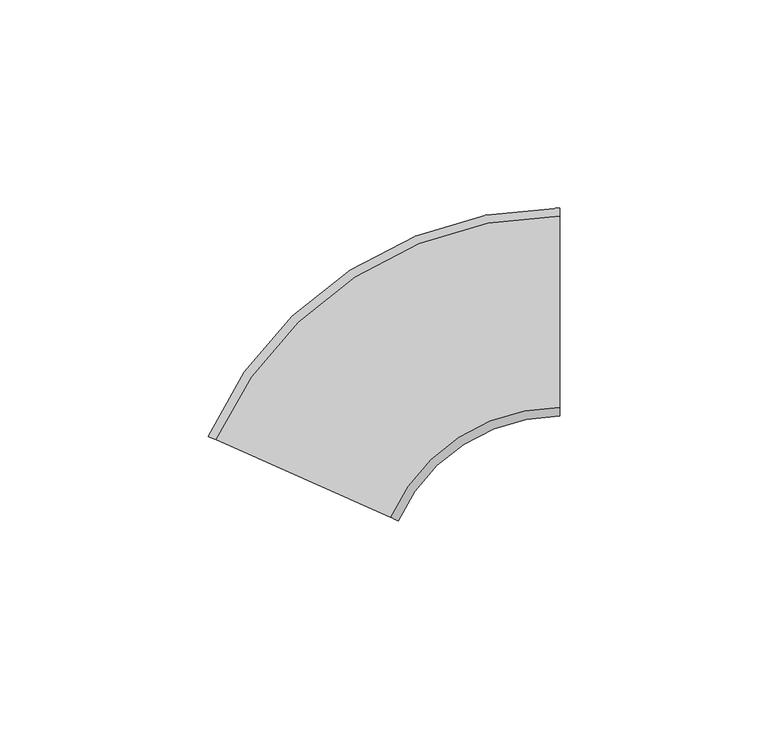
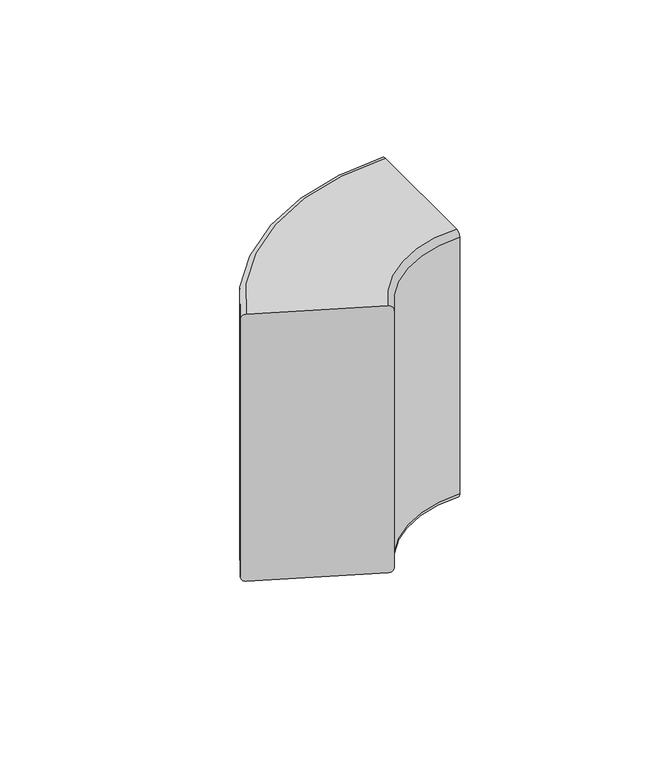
"""IFC4 building model written with IfcOpenShell, lengths in millimetres: duct fitting geometry, Угол внутренний переменный от 80° до 100° - для кабель-каналов DLP - белый : Угол внутренний переменный от 60° до 120° - для кабель-каналов DLP 50х105 - белый."""

import ifcopenshell
import ifcopenshell.guid

model = None  # the IFC model being written
_history = None  # IfcOwnerHistory: only IFC2X3 demands one
_inside = {}  # id of a spatial element -> (the spatial element, [elements in it])
_under = {}  # id of a project, library or spatial element -> (it, [spatial elements below it])
_declared = {}  # id of a project -> (the project, [libraries it declares])
_typed = {}  # id of a type object -> (the type object, [elements of that type])
_made_of = {}  # id of a material, layer set ... -> (it, [elements and type objects made of it])


def new_model(schema):
    """Start an empty IFC model of exactly this schema.

    Asked for "IFC4X3", IfcOpenShell would pick the latest addendum, in which some entities
    have other attributes; the version numbers below select the first issue.
    IFC2X3 requires an IfcOwnerHistory on every rooted entity: one is made here for all.
    """
    global model, _history
    if schema == "IFC4X3":
        model = ifcopenshell.file(schema_version=(4, 3, 0, 0))
    else:
        model = ifcopenshell.file(schema=schema)
    _inside.clear()
    _under.clear()
    _declared.clear()
    _typed.clear()
    _made_of.clear()
    _history = None
    if model.schema == "IFC2X3":
        org = make("IfcOrganization", Name="unknown")
        user = make(
            "IfcPersonAndOrganization",
            ThePerson=make("IfcPerson", FamilyName="unknown"),
            TheOrganization=org,
        )
        app = make(
            "IfcApplication",
            ApplicationDeveloper=org,
            Version="unknown",
            ApplicationFullName="unknown",
            ApplicationIdentifier="unknown",
        )
        _history = make(
            "IfcOwnerHistory",
            OwningUser=user,
            OwningApplication=app,
            ChangeAction="ADDED",
            CreationDate=0,
        )
    return model


def make(cls, **values):
    """One entity of the class cls with the attributes given. An attribute that is None is left unset."""
    return model.create_entity(
        cls, **{name: value for name, value in values.items() if value is not None}
    )


def rooted(cls, **values):
    """An entity with a GlobalId (a new one), such as an element, a storey or a relation."""
    return make(cls, GlobalId=ifcopenshell.guid.new(), OwnerHistory=_history, **values)


def si_unit(unit_type, name, prefix=None):
    """IfcSIUnit, for example si_unit("LENGTHUNIT", "METRE", prefix="MILLI")."""
    return make("IfcSIUnit", UnitType=unit_type, Prefix=prefix, Name=name)


def assignment(units):
    """IfcUnitAssignment: the units of a project."""
    return None if units is None else make("IfcUnitAssignment", Units=units)


def point(xyz):
    """IfcCartesianPoint."""
    return None if xyz is None else make("IfcCartesianPoint", Coordinates=xyz)


def direction(xyz):
    """IfcDirection."""
    return None if xyz is None else make("IfcDirection", DirectionRatios=xyz)


def frame(location, z_axis=None, x_axis=None):
    """IfcAxis2Placement3D, a coordinate frame: its origin and axes. An axis left out is left unset."""
    return make(
        "IfcAxis2Placement3D",
        Location=point(location),
        Axis=direction(z_axis),
        RefDirection=direction(x_axis),
    )


def origin():
    """The frame at (0, 0, 0) with its axes left unset."""
    return frame((0.0, 0.0, 0.0))


def place(relative_to, where):
    """IfcLocalPlacement: puts the frame where relative to a parent placement (None: the world)."""
    return make(
        "IfcLocalPlacement", PlacementRelTo=relative_to, RelativePlacement=where
    )


def context(
    kind, dimensions, precision=None, world=None, true_north=None, identifier=None
):
    """IfcGeometricRepresentationContext, for example the 3D "Model" context."""
    return make(
        "IfcGeometricRepresentationContext",
        ContextIdentifier=identifier,
        ContextType=kind,
        CoordinateSpaceDimension=dimensions,
        Precision=precision,
        WorldCoordinateSystem=world,
        TrueNorth=true_north,
    )


def project(units=None, contexts=None):
    """IfcProject with its units and contexts."""
    return rooted(
        "IfcProject",
        Name="project",
        RepresentationContexts=contexts,
        UnitsInContext=assignment(units),
    )


def spatial(cls, under=None, at=None, **own):
    """A site, building, storey or space (cls), placed at a placement, below another one or the project."""
    s = rooted(cls, ObjectPlacement=at, **own)
    if under is not None:
        _under.setdefault(under.id(), (under, []))[1].append(s)
    return s


def polyline(points):
    """IfcPolyline through the points."""
    return make("IfcPolyline", Points=[point(p) for p in points])


def circle_curve(where, radius):
    """IfcCircle in the frame where."""
    return make("IfcCircle", Position=where, Radius=radius)


def ellipse_curve(where, semi_axis1, semi_axis2):
    """IfcEllipse in the frame where."""
    return make(
        "IfcEllipse", Position=where, SemiAxis1=semi_axis1, SemiAxis2=semi_axis2
    )


def trimmed(basis, trim1, trim2, sense, master):
    """IfcTrimmedCurve: the piece of a basis curve between two trims."""
    return make(
        "IfcTrimmedCurve",
        BasisCurve=basis,
        Trim1=trim1,
        Trim2=trim2,
        SenseAgreement=sense,
        MasterRepresentation=master,
    )


def shape(context_of_items, identifier, shape_type, items):
    """IfcShapeRepresentation: the items that make up one representation, for example the "Body"."""
    return make(
        "IfcShapeRepresentation",
        ContextOfItems=context_of_items,
        RepresentationIdentifier=identifier,
        RepresentationType=shape_type,
        Items=items,
    )


def source(mapping_origin, context_of_items, identifier, shape_type, items):
    """IfcRepresentationMap: a shape defined once, which mapped items show again and again."""
    return make(
        "IfcRepresentationMap",
        MappingOrigin=mapping_origin,
        MappedRepresentation=shape(context_of_items, identifier, shape_type, items),
    )


def transform(
    local_origin,
    x_axis=None,
    y_axis=None,
    z_axis=None,
    scale=None,
    scale2=None,
    scale3=None,
    uniform=True,
):
    """IfcCartesianTransformationOperator3D, or its non-uniform kind. x_axis, y_axis, z_axis: its Axis1, 2, 3."""
    if uniform:
        return make(
            "IfcCartesianTransformationOperator3D",
            Axis1=direction(x_axis),
            Axis2=direction(y_axis),
            LocalOrigin=point(local_origin),
            Scale=scale,
            Axis3=direction(z_axis),
        )
    return make(
        "IfcCartesianTransformationOperator3DnonUniform",
        Axis1=direction(x_axis),
        Axis2=direction(y_axis),
        LocalOrigin=point(local_origin),
        Scale=scale,
        Axis3=direction(z_axis),
        Scale2=scale2,
        Scale3=scale3,
    )


def mapped(mapping_source, mapping_target):
    """IfcMappedItem: shows the shape of a source again, moved by a transform."""
    return make(
        "IfcMappedItem", MappingSource=mapping_source, MappingTarget=mapping_target
    )


def made_of(thing, what):
    """Note that an element or type object is made of a material, layer set ...; save() writes the relation."""
    if what is not None:
        _made_of.setdefault(what.id(), (what, []))[1].append(thing)
    return thing


def element(
    cls,
    number,
    at=None,
    inside=None,
    cuts=None,
    type_object=None,
    material=None,
    context=None,
    identifier="Body",
    shape_type=None,
    held_by="IfcProductDefinitionShape",
    body=None,
    shapes=None,
    **own,
):
    """One element of the class cls, such as IfcWall. Its Tag is "e" and its number.

    at: its placement. inside: the storey or other place that contains it. cuts: it is an
    opening in that element (IfcRelVoidsElement). A single representation is given by context,
    identifier, shape_type and body (its items); several are given by shapes. held_by: the class
    of the entity that holds the representations. save() writes the other relations.
    """
    e = rooted(cls, Tag="e%d" % number, ObjectPlacement=at, **own)
    if body is not None:
        shapes = [shape(context, identifier, shape_type, body)]
    if shapes is not None:
        e.Representation = make(held_by, Representations=shapes)
    if inside is not None:
        _inside.setdefault(inside.id(), (inside, []))[1].append(e)
    if cuts is not None:
        rooted(
            "IfcRelVoidsElement", RelatingBuildingElement=cuts, RelatedOpeningElement=e
        )
    if type_object is not None:
        _typed.setdefault(type_object.id(), (type_object, []))[1].append(e)
    return made_of(e, material)


def aggregate(whole, parts):
    """IfcRelAggregates: a whole, such as a stair, and the parts it consists of."""
    return rooted("IfcRelAggregates", RelatingObject=whole, RelatedObjects=parts)


def save(model, path):
    """Write the relations noted so far, then the file.

    IfcRelAggregates (storeys below a building ...), IfcRelContainedInSpatialStructure (elements
    in a storey), IfcRelDefinesByType, IfcRelAssociatesMaterial and IfcRelDeclares: one each for
    every whole, place, type object, material and project.
    """
    for whole, parts in _under.values():
        aggregate(whole, parts)
    for where, things in _inside.values():
        rooted(
            "IfcRelContainedInSpatialStructure",
            RelatedElements=things,
            RelatingStructure=where,
        )
    for kind, things in _typed.values():
        rooted("IfcRelDefinesByType", RelatedObjects=things, RelatingType=kind)
    for what, things in _made_of.values():
        rooted("IfcRelAssociatesMaterial", RelatedObjects=things, RelatingMaterial=what)
    for by, libraries in _declared.values():
        rooted("IfcRelDeclares", RelatingContext=by, RelatedDefinitions=libraries)
    model.write(path)


def plane_surface(at):
    """IfcPlane: the flat surface through the origin of the frame at, square to its z axis."""
    return make("IfcPlane", Position=at)


def cylinder_surface(at, radius):
    """IfcCylindricalSurface: all points at the distance radius from the z axis of the frame at."""
    return make("IfcCylindricalSurface", Position=at, Radius=radius)


def revolved_surface(curve, axis_point, axis_direction):
    """IfcSurfaceOfRevolution: the curve turned about the line through axis_point along axis_direction."""
    return make(
        "IfcSurfaceOfRevolution",
        SweptCurve=make("IfcArbitraryOpenProfileDef", ProfileType="CURVE", Curve=curve),
        AxisPosition=make("IfcAxis1Placement", Location=point(axis_point), Axis=direction(axis_direction)),
    )


def advanced_brep(points, edges, surfaces, faces):
    """IfcAdvancedBrep: a solid bounded by faces that lie on surfaces and meet in shared edges.

    An edge is (start, end): straight between two places in points (the first is 0);
    or (start, end, curve); or (start, end, curve, False) where it runs against its curve.
    A face is (place in surfaces, loops), or (place, loops, False) where it looks against
    its surface's normal. A loop lists edges by number (the first is 1), with a minus sign
    where the edge is run from its end to its start. The first loop is the outer one.
    """
    corners = [point(p) for p in points]
    vertices = [make("IfcVertexPoint", VertexGeometry=c) for c in corners]
    made = []
    for start, end, *more in edges:
        made.append(
            make(
                "IfcEdgeCurve",
                EdgeStart=vertices[start],
                EdgeEnd=vertices[end],
                EdgeGeometry=more[0] if more else make("IfcPolyline", Points=[corners[start], corners[end]]),
                SameSense=more[1] if len(more) > 1 else True,
            )
        )
    hull = []
    for where, loops, *sense in faces:
        bounds = []
        for j, loop in enumerate(loops):
            ring = [make("IfcOrientedEdge", EdgeElement=made[abs(k) - 1], Orientation=k > 0) for k in loop]
            bounds.append(
                make(
                    "IfcFaceOuterBound" if j == 0 else "IfcFaceBound",
                    Bound=make("IfcEdgeLoop", EdgeList=ring),
                    Orientation=True,
                )
            )
        hull.append(make("IfcAdvancedFace", Bounds=bounds, FaceSurface=surfaces[where], SameSense=sense[0] if sense else True))
    return make("IfcAdvancedBrep", Outer=make("IfcClosedShell", CfsFaces=hull))


def duct_fitting_6c5a0378(model_context):
    return source(origin(), model_context, "Body", "AdvancedBrep", [
        advanced_brep(
        [(-15.1758639, -58.1450572, 52.5), (-17.0029548, -57.3315839, 50.5), (-17.0029548, -57.3315839, -50.5), (-15.1758639, -58.1450572, -52.5), (26.8472271, -76.8549428, -52.5), (28.6743181, -77.6684161, -50.5), (28.6743181, -77.6684161, 50.5), (26.8472271, -76.8549428, 52.5), (67.5, -4.4547234, 52.5), (67.5, -50.4547234, 52.5), (67.5, -52.4547234, 50.5), (67.5, -52.4547234, -50.5), (67.5, -50.4547234, -52.5), (67.5, -4.4547234, -52.5), (67.5, -2.4547234, -50.5), (67.5, -2.4547234, 50.5)],
        [
            (0, 1, circle_curve(frame((-15.1758639, -58.1450572, 50.5), z_axis=(-0.40673664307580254, -0.9135454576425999, 0.0), x_axis=(-0.9135454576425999, 0.40673664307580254, 0.0)), 2.0)),
            (1, 2),
            (2, 3, circle_curve(frame((-15.1758639, -58.1450572, -50.5), z_axis=(-0.40673664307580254, -0.9135454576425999, 0.0), x_axis=(-0.9135454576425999, 0.40673664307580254, 0.0)), 2.0)),
            (3, 4),
            (4, 5, circle_curve(frame((26.8472271, -76.8549428, -50.5), z_axis=(-0.40673664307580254, -0.9135454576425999, 0.0), x_axis=(-0.9135454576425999, 0.40673664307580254, 0.0)), 2.0)),
            (5, 6),
            (6, 7, circle_curve(frame((26.8472271, -76.8549428, 50.5), z_axis=(-0.40673664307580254, -0.9135454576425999, 0.0), x_axis=(-0.9135454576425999, 0.40673664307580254, 0.0)), 2.0)),
            (7, 0),
            (8, 9),
            (9, 10, circle_curve(frame((67.5, -50.4547234, 50.5), z_axis=(1.0, 0.0, 0.0), x_axis=(0.0, 1.0, 0.0)), 2.0)),
            (10, 11),
            (11, 12, circle_curve(frame((67.5, -50.4547234, -50.5), z_axis=(1.0, 0.0, 0.0), x_axis=(0.0, 1.0, 0.0)), 2.0)),
            (12, 13),
            (13, 14, circle_curve(frame((67.5, -4.4547234, -50.5), z_axis=(1.0, 0.0, 0.0), x_axis=(0.0, 1.0, 0.0)), 2.0)),
            (14, 15),
            (15, 8, circle_curve(frame((67.5, -4.4547234, 50.5), z_axis=(1.0, 0.0, 0.0), x_axis=(0.0, 1.0, 0.0)), 2.0)),
            (15, 1, circle_curve(frame((67.5, -94.9547234, 50.5), z_axis=(0.0, 0.0, 1.0), x_axis=(-0.9135454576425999, 0.4067366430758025, 0.0)), 92.5)),
            (0, 8, circle_curve(frame((67.5, -94.9547234, 52.5), z_axis=(0.0, 0.0, -1.0), x_axis=(-0.9135454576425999, 0.4067366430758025, 0.0)), 90.5)),
            (14, 2, circle_curve(frame((67.5, -94.9547234, -50.5), z_axis=(0.0, 0.0, 1.0), x_axis=(-0.9135454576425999, 0.4067366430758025, 0.0)), 92.5)),
            (13, 3, circle_curve(frame((67.5, -94.9547234, -52.5), z_axis=(0.0, 0.0, 1.0), x_axis=(-0.9135454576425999, 0.4067366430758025, 0.0)), 90.5)),
            (12, 4, circle_curve(frame((67.5, -94.9547234, -52.5), z_axis=(0.0, 0.0, 1.0), x_axis=(-0.9135454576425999, 0.4067366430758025, 0.0)), 44.5)),
            (11, 5, circle_curve(frame((67.5, -94.9547234, -50.5), z_axis=(0.0, 0.0, 1.0), x_axis=(-0.9135454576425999, 0.4067366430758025, 0.0)), 42.5)),
            (10, 6, circle_curve(frame((67.5, -94.9547234, 50.5), z_axis=(0.0, 0.0, 1.0), x_axis=(-0.9135454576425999, 0.4067366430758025, 0.0)), 42.5)),
            (9, 7, circle_curve(frame((67.5, -94.9547234, 52.5), z_axis=(0.0, 0.0, 1.0), x_axis=(-0.9135454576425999, 0.4067366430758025, 0.0)), 44.5)),
        ],
        [
            plane_surface(frame((5.8356816, -67.5, 0.0), z_axis=(-0.40673664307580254, -0.9135454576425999, 0.0), x_axis=(0.0, 0.0, 1.0))),
            plane_surface(frame((67.5, -27.4547234, 0.0), z_axis=(1.0, 0.0, 0.0), x_axis=(0.0, 0.0, 1.0))),
            revolved_surface(trimmed(ellipse_curve(frame((-15.1758639, -58.1450572, 50.5), z_axis=(-0.40673664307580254, -0.9135454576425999, 0.0), x_axis=(-0.9135454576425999, 0.40673664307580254, 0.0)), 2.0, 2.0), [point((-15.1758639, -58.1450572, 52.5))], [point((-17.0029548, -57.3315839, 50.5))], True, "CARTESIAN"), (67.5, -94.9547234, 0.0), (0.0, 0.0, -1.0)),
            cylinder_surface(frame((67.5, -94.9547234, 0.0), z_axis=(0.0, 0.0, -1.0), x_axis=(-0.9135454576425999, 0.4067366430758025, 0.0)), 92.5),
            revolved_surface(trimmed(ellipse_curve(frame((-15.1758639, -58.1450572, -50.5), z_axis=(-0.40673664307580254, -0.9135454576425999, 0.0), x_axis=(-0.9135454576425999, 0.40673664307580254, 0.0)), 2.0, 2.0), [point((-17.0029548, -57.3315839, -50.5))], [point((-15.1758639, -58.1450572, -52.5))], True, "CARTESIAN"), (67.5, -94.9547234, 0.0), (0.0, 0.0, -1.0)),
            plane_surface(frame((67.5, -94.9547234, -52.5), z_axis=(0.0, 0.0, -1.0), x_axis=(-0.9135454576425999, 0.4067366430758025, 0.0))),
            revolved_surface(trimmed(ellipse_curve(frame((26.8472271, -76.8549428, -50.5), z_axis=(-0.40673664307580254, -0.9135454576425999, 0.0), x_axis=(-0.9135454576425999, 0.40673664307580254, 0.0)), 2.0, 2.0), [point((26.8472271, -76.8549428, -52.5))], [point((28.6743181, -77.6684161, -50.5))], True, "CARTESIAN"), (67.5, -94.9547234, 0.0), (0.0, 0.0, -1.0)),
            revolved_surface(polyline([(28.674318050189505, -77.66841606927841, -50.5), (28.674318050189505, -77.66841606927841, 50.5)]), (67.5, -94.9547234, 0.0), (0.0, 0.0, -1.0)),
            revolved_surface(trimmed(ellipse_curve(frame((26.8472271, -76.8549428, 50.5), z_axis=(-0.40673664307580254, -0.9135454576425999, 0.0), x_axis=(-0.9135454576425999, 0.40673664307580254, 0.0)), 2.0, 2.0), [point((28.6743181, -77.6684161, 50.5))], [point((26.8472271, -76.8549428, 52.5))], True, "CARTESIAN"), (67.5, -94.9547234, 0.0), (0.0, 0.0, -1.0)),
            plane_surface(frame((67.5, -94.9547234, 52.5), z_axis=(0.0, 0.0, 1.0), x_axis=(-0.9135454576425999, 0.4067366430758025, 0.0))),
        ],
        [
            (0, [[1, 2, 3, 4, 5, 6, 7, 8]]),
            (1, [[9, 10, 11, 12, 13, 14, 15, 16]]),
            (2, [[17, -1, 18, -16]]),
            (3, [[19, -2, -17, -15]]),
            (4, [[20, -3, -19, -14]]),
            (5, [[21, -4, -20, -13]]),
            (6, [[22, -5, -21, -12]]),
            (7, [[23, -6, -22, -11]]),
            (8, [[24, -7, -23, -10]]),
            (9, [[-18, -8, -24, -9]]),
        ],
    ),
    ])


if __name__ == "__main__":
    model = new_model("IFC4")
    model_context = context("Model", 3, world=origin())
    ifc_project = project(units=[si_unit("LENGTHUNIT", "METRE", prefix="MILLI")], contexts=[model_context])
    site = spatial("IfcSite", under=ifc_project)
    building = spatial("IfcBuilding", under=site)
    placement = place(None, origin())
    duct_fitting_shape = duct_fitting_6c5a0378(model_context)
    element("IfcDuctFitting", 1, ObjectType="Угол внутренний переменный от 80° до 100° - для кабель-каналов DLP - белый : Угол внутренний переменный от 60° до 120° - для кабель-каналов DLP 50х105 - белый", at=placement, inside=building, context=model_context, shape_type="MappedRepresentation", body=[
        mapped(duct_fitting_shape, transform((0.0, 0.0, 0.0), x_axis=(1.0, 0.0, 0.0), y_axis=(0.0, 1.0, 0.0), z_axis=(0.0, 0.0, 1.0))),
    ])
    save(model, "model.ifc")
